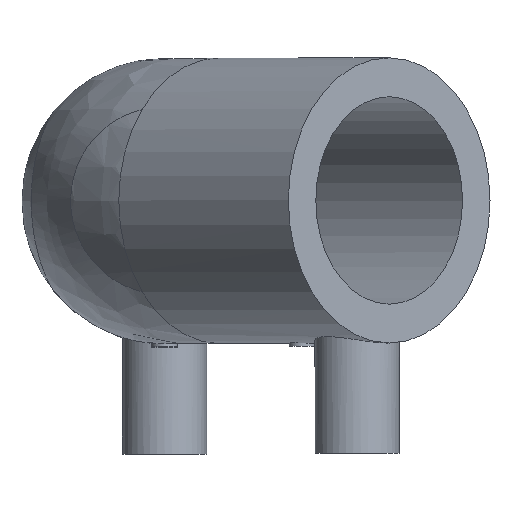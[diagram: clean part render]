
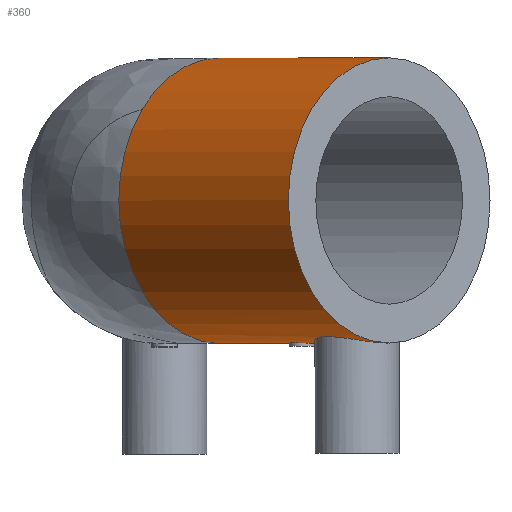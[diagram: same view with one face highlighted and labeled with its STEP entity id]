
A CAD part, top view. The second image highlights one B-rep face of the part: STEP entity #360.
In plain terms, the highlighted cylindrical face has radius 22 mm (diameter 44 mm), a full revolution.
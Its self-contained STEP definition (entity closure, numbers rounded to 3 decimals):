
#31=CYLINDRICAL_SURFACE('',#412,22.);
#40=B_SPLINE_CURVE_WITH_KNOTS('',3,(#568,#569,#570,#571,#572,#573,#574,
#575,#576,#577,#578,#579,#580,#581,#582,#583,#584,#585,#586),
 .UNSPECIFIED.,.T.,.F.,(1,1,1,1,1,1,1,1,1,1,1,1,1,1,1,1,1,1,1,1,1,1,1),
(-0.008,-0.005,-0.003,0.,
0.003,0.005,0.008,0.01,
0.013,0.015,0.018,0.02,
0.023,0.026,0.028,0.031,
0.033,0.036,0.038,0.041,
0.043,0.046,0.049),.UNSPECIFIED.);
#41=B_SPLINE_CURVE_WITH_KNOTS('',3,(#597,#598,#599,#600,#601,#602,#603,
#604,#605,#606,#607),.UNSPECIFIED.,.T.,.F.,(1,1,1,1,1,1,1,1,1,1,1,1,1,1,
1),(-0.005,-0.003,-0.002,0.,0.002,
0.003,0.005,0.006,0.008,
0.009,0.011,0.013,0.014,
0.016,0.017),.UNSPECIFIED.);
#77=ORIENTED_EDGE('',*,*,#136,.T.);
#78=ORIENTED_EDGE('',*,*,#139,.T.);
#79=ORIENTED_EDGE('',*,*,#147,.F.);
#80=ORIENTED_EDGE('',*,*,#148,.T.);
#81=ORIENTED_EDGE('',*,*,#149,.F.);
#136=EDGE_CURVE('',#175,#175,#40,.T.);
#139=EDGE_CURVE('',#178,#178,#41,.T.);
#147=EDGE_CURVE('',#185,#185,#212,.F.);
#148=EDGE_CURVE('',#186,#187,#213,.F.);
#149=EDGE_CURVE('',#186,#187,#214,.F.);
#175=VERTEX_POINT('',#587);
#178=VERTEX_POINT('',#608);
#185=VERTEX_POINT('',#638);
#186=VERTEX_POINT('',#640);
#187=VERTEX_POINT('',#641);
#212=CIRCLE('',#413,22.);
#213=CIRCLE('',#414,22.);
#214=CIRCLE('',#415,22.);
#244=EDGE_LOOP('',(#77));
#245=EDGE_LOOP('',(#78));
#246=EDGE_LOOP('',(#79));
#247=EDGE_LOOP('',(#80,#81));
#299=FACE_BOUND('',#244,.T.);
#300=FACE_BOUND('',#245,.T.);
#301=FACE_BOUND('',#246,.T.);
#302=FACE_BOUND('',#247,.T.);
#360=ADVANCED_FACE('',(#299,#300,#301,#302),#31,.T.);
#412=AXIS2_PLACEMENT_3D('',#636,#484,#485);
#413=AXIS2_PLACEMENT_3D('',#637,#486,#487);
#414=AXIS2_PLACEMENT_3D('',#639,#488,#489);
#415=AXIS2_PLACEMENT_3D('',#642,#490,#491);
#484=DIRECTION('',(0.707,0.,0.707));
#485=DIRECTION('',(0.707,0.,-0.707));
#486=DIRECTION('',(-0.707,0.,-0.707));
#487=DIRECTION('',(0.707,0.,-0.707));
#488=DIRECTION('',(-0.707,0.,-0.707));
#489=DIRECTION('',(0.707,0.,-0.707));
#490=DIRECTION('',(0.707,0.,0.707));
#491=DIRECTION('',(0.,1.,0.));
#568=CARTESIAN_POINT('',(23.529,-21.129,32.231));
#569=CARTESIAN_POINT('',(24.981,-20.962,34.418));
#570=CARTESIAN_POINT('',(27.161,-21.129,35.866));
#571=CARTESIAN_POINT('',(29.699,-21.516,36.365));
#572=CARTESIAN_POINT('',(32.236,-21.895,35.866));
#573=CARTESIAN_POINT('',(34.412,-22.053,34.42));
#574=CARTESIAN_POINT('',(35.865,-21.895,32.241));
#575=CARTESIAN_POINT('',(36.365,-21.516,29.696));
#576=CARTESIAN_POINT('',(35.865,-21.129,27.159));
#577=CARTESIAN_POINT('',(34.418,-20.963,24.983));
#578=CARTESIAN_POINT('',(32.242,-21.128,23.533));
#579=CARTESIAN_POINT('',(29.703,-21.515,23.032));
#580=CARTESIAN_POINT('',(27.162,-21.895,23.53));
#581=CARTESIAN_POINT('',(24.982,-22.053,24.979));
#582=CARTESIAN_POINT('',(23.532,-21.895,27.157));
#583=CARTESIAN_POINT('',(23.033,-21.516,29.697));
#584=CARTESIAN_POINT('',(23.529,-21.129,32.231));
#585=CARTESIAN_POINT('',(24.981,-20.962,34.418));
#586=CARTESIAN_POINT('',(27.161,-21.129,35.866));
#587=CARTESIAN_POINT('',(25.102,-21.018,34.295));
#597=CARTESIAN_POINT('',(23.43,-21.955,21.215));
#598=CARTESIAN_POINT('',(22.781,-21.886,19.645));
#599=CARTESIAN_POINT('',(21.213,-21.955,18.997));
#600=CARTESIAN_POINT('',(19.647,-22.023,19.645));
#601=CARTESIAN_POINT('',(18.996,-21.955,21.212));
#602=CARTESIAN_POINT('',(19.646,-21.886,22.78));
#603=CARTESIAN_POINT('',(21.211,-21.954,23.429));
#604=CARTESIAN_POINT('',(22.779,-22.023,22.782));
#605=CARTESIAN_POINT('',(23.43,-21.955,21.215));
#606=CARTESIAN_POINT('',(22.781,-21.886,19.645));
#607=CARTESIAN_POINT('',(21.213,-21.955,18.997));
#608=CARTESIAN_POINT('',(22.627,-21.909,19.799));
#636=CARTESIAN_POINT('',(8.485,0.,8.485));
#637=CARTESIAN_POINT('',(34.648,0.,34.648));
#638=CARTESIAN_POINT('',(50.205,0.,19.092));
#639=CARTESIAN_POINT('',(8.485,0.,8.485));
#640=CARTESIAN_POINT('',(-3.468,-14.079,20.439));
#641=CARTESIAN_POINT('',(-3.468,14.079,20.439));
#642=CARTESIAN_POINT('',(8.485,0.,8.485));
